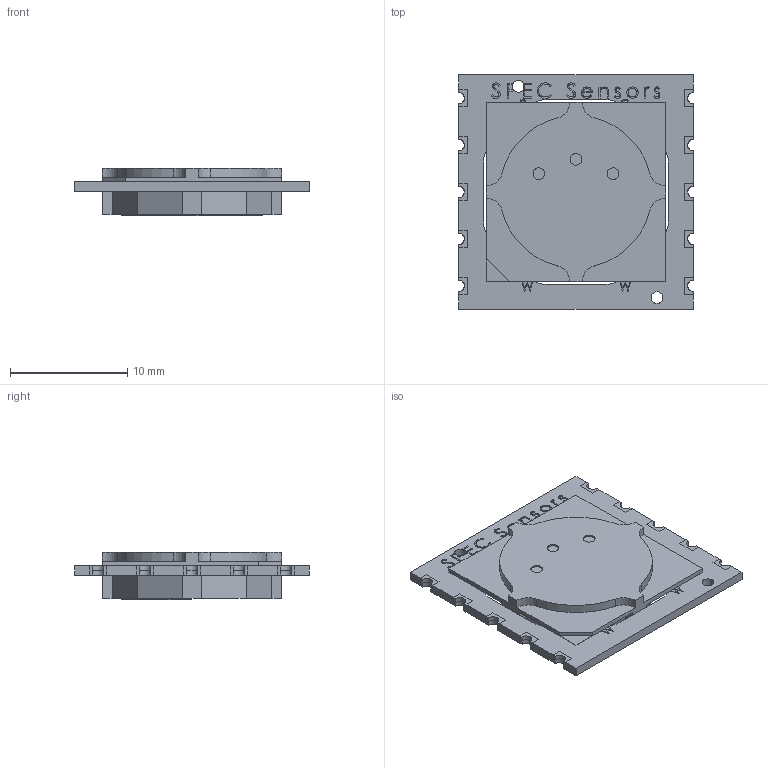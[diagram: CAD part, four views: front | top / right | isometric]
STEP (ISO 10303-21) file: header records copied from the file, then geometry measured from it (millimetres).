
FILE_DESCRIPTION (( 'STEP AP214' ), '1' );
FILE_NAME ('110-508 STEP.STEP', '2023-06-20T22:41:47', ( '' ), ( '' ), 'SwSTEP 2.0', 'SolidWorks 2017', '' );
FILE_SCHEMA (( 'AUTOMOTIVE_DESIGN' ));
Length unit declared in the file: millimetre
Products named in the file (4): 981-014; 100-502 STEP; 110-508 STEP; semicircle barcode label
Assembly tree (3 placements, depth 2):
  110-508 STEP
    100-502 STEP
    semicircle barcode label
    981-014
Bounding box: 20.01 x 20 x 4.01 mm (x, y, z)
Volume: 732.7 mm3; surface area: 1455.7 mm2
Topology: 32 solids, 32 shells, 602 faces, 1606 edges, 1076 vertices
Faces by surface type: plane 368, bspline 123, cylinder 111
Full cylindrical faces by diameter (mm): 0.35 x1, 0.75 x24, 1 x13
Entity records: 28168 total; most frequent: CARTESIAN_POINT 9399, ORIENTED_EDGE 3104, DIRECTION 2498, EDGE_CURVE 1552, LINE 1084, VECTOR 1084, VERTEX_POINT 1060, EDGE_LOOP 724
